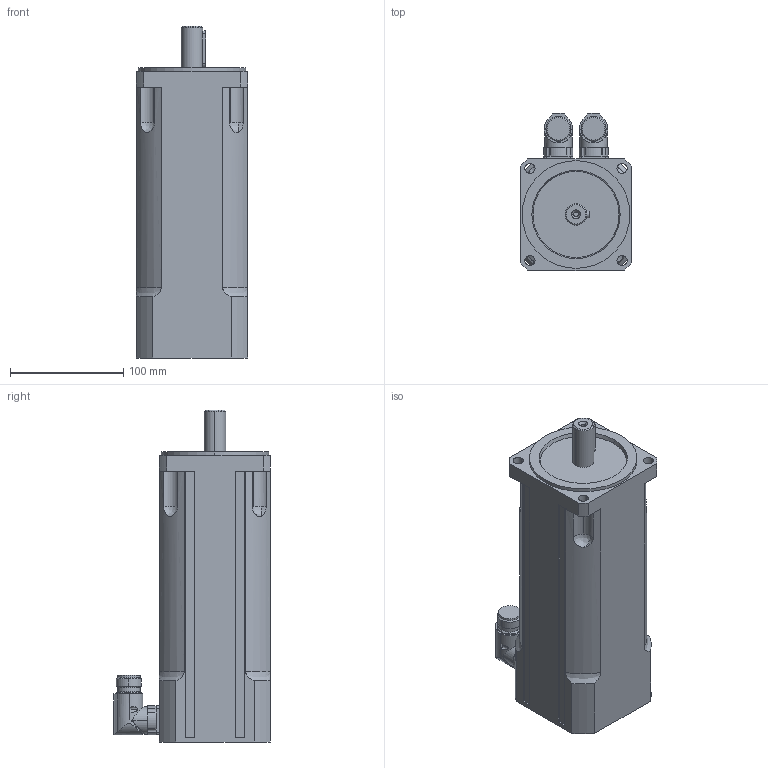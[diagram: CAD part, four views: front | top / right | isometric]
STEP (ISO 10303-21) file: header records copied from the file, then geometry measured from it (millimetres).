
FILE_DESCRIPTION(('STEP AP203'),'2;1');
FILE_NAME('MT4-0750-B.stp','2006-08-28T20:11:47',(''),(''),'2005.2.102','THINKDESIGN','');
FILE_SCHEMA(('CONFIG_CONTROL_DESIGN'));
Length unit declared in the file: millimetre
Bounding box: 98 x 138.5 x 293 mm (x, y, z)
Volume: 2303712.4 mm3; surface area: 137396.6 mm2
Topology: 3 solids, 3 shells, 247 faces, 643 edges, 416 vertices
Faces by surface type: cylinder 110, plane 83, bspline 54
Entity records: 9366 total; most frequent: CARTESIAN_POINT 3252, ORIENTED_EDGE 1286, DIRECTION 1251, EDGE_CURVE 643, AXIS2_PLACEMENT_3D 485, VERTEX_POINT 416, CIRCLE 292, EDGE_LOOP 285
